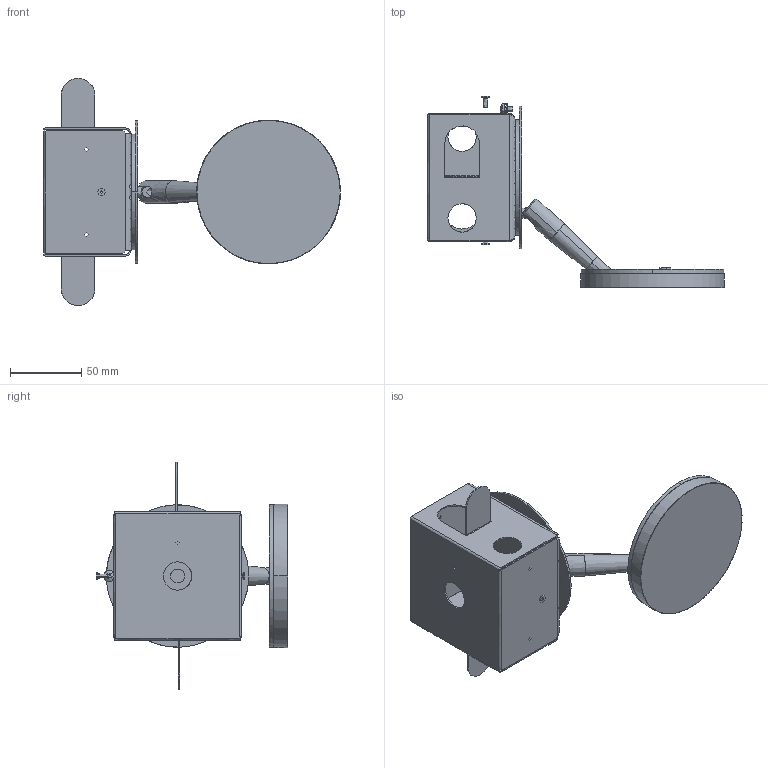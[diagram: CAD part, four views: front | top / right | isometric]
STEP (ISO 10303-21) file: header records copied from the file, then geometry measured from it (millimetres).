
FILE_DESCRIPTION(/* description */ (''),/* implementation_level */ '2;1');
FILE_NAME(/* name */ 'X052__~1',/* time_stamp */ '2024-07-04T16:22:26+02:00',/* author */ (''),/* organization */ (''),/* preprocessor_version */ 'ST-DEVELOPER v16.5',/* originating_system */ '',/* authorisation */ '');
FILE_SCHEMA (('AUTOMOTIVE_DESIGN'));
Length unit declared in the file: millimetre
Products named in the file (1): Document
Bounding box: 208.6 x 134.53 x 159.63 mm (x, y, z)
Volume: 123263.6 mm3; surface area: 147585.1 mm2
Topology: 28 solids, 29 shells, 1309 faces, 3369 edges, 2003 vertices
Faces by surface type: bspline 994, plane 315
Entity records: 64119 total; most frequent: CARTESIAN_POINT 44855, ORIENTED_EDGE 6626, EDGE_CURVE 3315, VERTEX_POINT 2003, B_SPLINE_CURVE_WITH_KNOTS 1905, EDGE_LOOP 1466, ADVANCED_FACE 1309, FACE_OUTER_BOUND 1309
